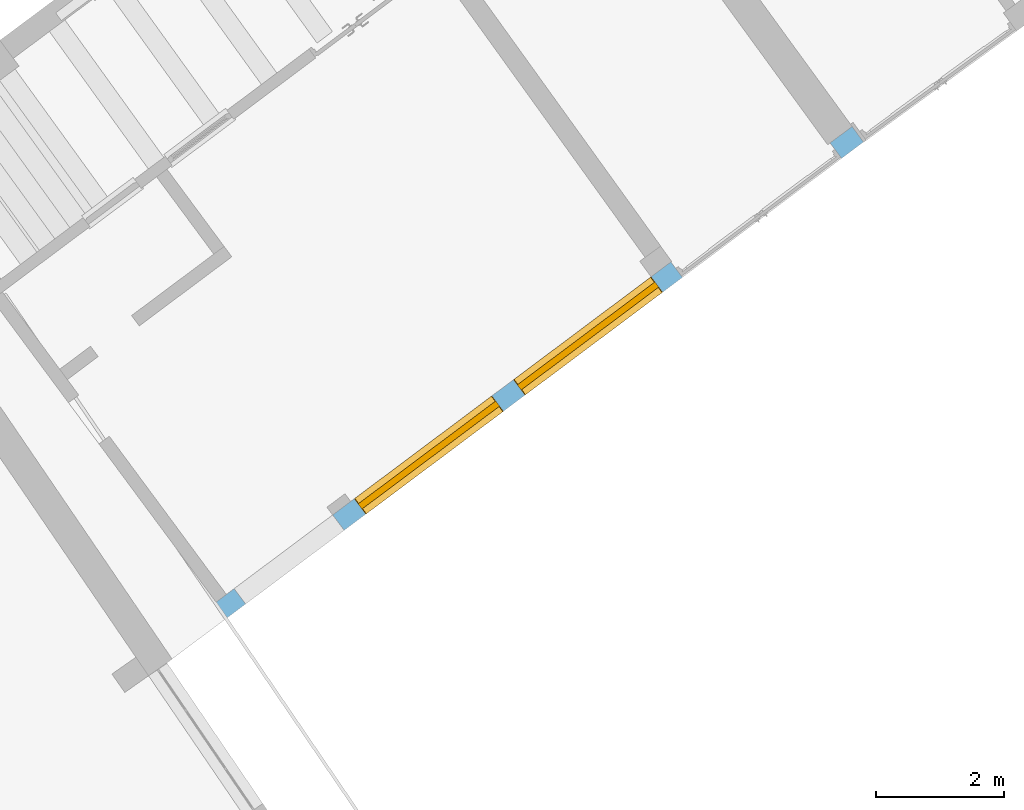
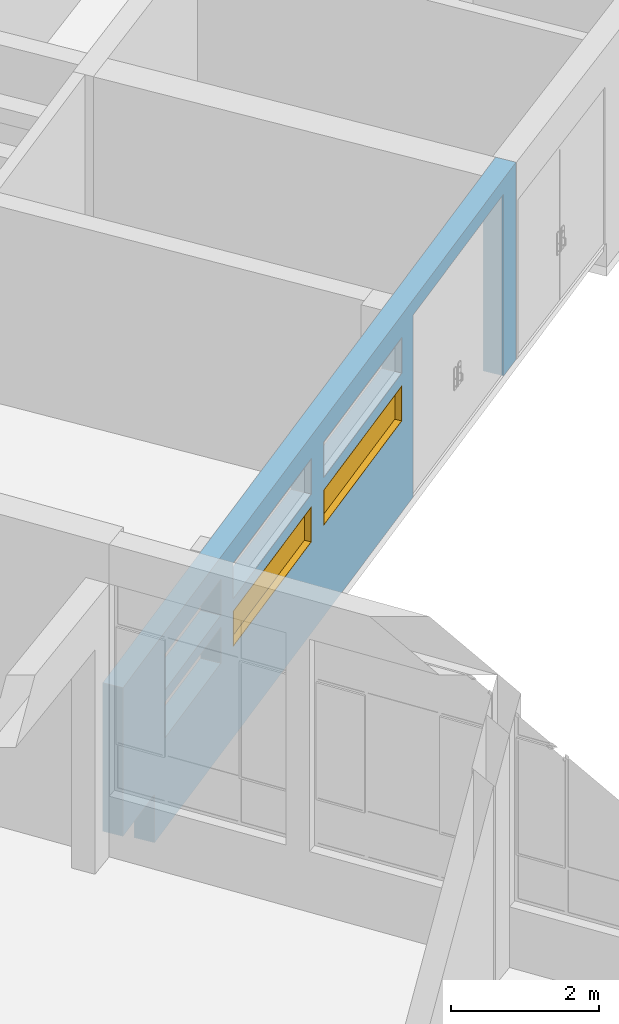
# One storey, part 135 of 157: 2 windows, 7 openings, plus 1 element that does not belong to this part.
"""IFC2X3 building model written with IfcOpenShell, lengths in millimetres."""

from ifc_helpers import new_model, entity, si_unit, converted_unit, derived_unit, direction, frame, frame_2d, origin, origin_2d_with_axis, place, context, subcontext, project, spatial, polyline, rectangle, outline, extrude, faceted_brep, source, transform, mapped, material, material_list, layer, layer_set, type_object, type_shapes, element, fill, save


model = new_model("IFC2X3")

# Units and contexts
model_context = context("Model", 3, precision=0.01, world=origin(), true_north=direction((6.123031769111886e-17, 1.0)))
body_context = subcontext(model_context, "Body", "Model", "MODEL_VIEW")
ifc_project = project(units=[si_unit("LENGTHUNIT", "METRE", prefix="MILLI"), si_unit("AREAUNIT", "SQUARE_METRE"), si_unit("VOLUMEUNIT", "CUBIC_METRE"), converted_unit("PLANEANGLEUNIT", "DEGREE", entity("IfcRatioMeasure", 0.017453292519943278), si_unit("PLANEANGLEUNIT", "RADIAN"), dimensions=[0, 0, 0, 0, 0, 0, 0]), si_unit("MASSUNIT", "GRAM", prefix="KILO"), derived_unit("MASSDENSITYUNIT", [(si_unit("MASSUNIT", "GRAM", prefix="KILO"), 1), (si_unit("LENGTHUNIT", "METRE"), -3)]), derived_unit("MOMENTOFINERTIAUNIT", [(si_unit("LENGTHUNIT", "METRE"), 4)]), si_unit("TIMEUNIT", "SECOND"), si_unit("FREQUENCYUNIT", "HERTZ"), si_unit("THERMODYNAMICTEMPERATUREUNIT", "DEGREE_CELSIUS"), derived_unit("THERMALTRANSMITTANCEUNIT", [(si_unit("MASSUNIT", "GRAM", prefix="KILO"), 1), (si_unit("THERMODYNAMICTEMPERATUREUNIT", "KELVIN"), -1), (si_unit("TIMEUNIT", "SECOND"), -3)]), derived_unit("THERMALCONDUCTANCEUNIT", [(si_unit("MASSUNIT", "GRAM", prefix="KILO"), 1), (si_unit("LENGTHUNIT", "METRE"), 1), (si_unit("THERMODYNAMICTEMPERATUREUNIT", "KELVIN"), -1), (si_unit("TIMEUNIT", "SECOND"), -3)]), derived_unit("VOLUMETRICFLOWRATEUNIT", [(si_unit("LENGTHUNIT", "METRE"), 3), (si_unit("TIMEUNIT", "SECOND"), -1)]), derived_unit("MASSFLOWRATEUNIT", [(si_unit("MASSUNIT", "GRAM", prefix="KILO"), 1), (si_unit("TIMEUNIT", "SECOND"), -1)]), derived_unit("ROTATIONALFREQUENCYUNIT", [(si_unit("TIMEUNIT", "SECOND"), -1)]), si_unit("ELECTRICCURRENTUNIT", "AMPERE"), si_unit("ELECTRICVOLTAGEUNIT", "VOLT"), si_unit("POWERUNIT", "WATT"), converted_unit("FORCEUNIT", "KIP", entity("IfcRatioMeasure", 2.088543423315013e-05), si_unit("FORCEUNIT", "NEWTON"), dimensions=[1, 1, -2, 0, 0, 0, 0]), si_unit("ILLUMINANCEUNIT", "LUX"), si_unit("LUMINOUSFLUXUNIT", "LUMEN"), si_unit("LUMINOUSINTENSITYUNIT", "CANDELA"), derived_unit("USERDEFINED", [(si_unit("MASSUNIT", "GRAM", prefix="KILO"), -1), (si_unit("LENGTHUNIT", "METRE"), -2), (si_unit("TIMEUNIT", "SECOND"), 3), (si_unit("LUMINOUSFLUXUNIT", "LUMEN"), 1)]), derived_unit("USERDEFINED", [(si_unit("MASSUNIT", "GRAM", prefix="KILO"), 1), (si_unit("LENGTHUNIT", "METRE"), 3), (si_unit("TIMEUNIT", "SECOND"), -3), (si_unit("ELECTRICCURRENTUNIT", "AMPERE"), -2)]), derived_unit("USERDEFINED", [(si_unit("LENGTHUNIT", "METRE"), 2), (si_unit("TIMEUNIT", "SECOND"), -2)]), derived_unit("SOUNDPOWERUNIT", [(si_unit("MASSUNIT", "GRAM", prefix="KILO"), 1), (si_unit("LENGTHUNIT", "METRE"), 2), (si_unit("TIMEUNIT", "SECOND"), -3)]), derived_unit("SOUNDPRESSUREUNIT", [(si_unit("MASSUNIT", "GRAM", prefix="KILO"), 1), (si_unit("LENGTHUNIT", "METRE"), -1), (si_unit("TIMEUNIT", "SECOND"), -2)]), derived_unit("LINEARVELOCITYUNIT", [(si_unit("LENGTHUNIT", "METRE"), 1), (si_unit("TIMEUNIT", "SECOND"), -1)]), si_unit("PRESSUREUNIT", "PASCAL"), derived_unit("USERDEFINED", [(si_unit("LENGTHUNIT", "METRE"), -2), (si_unit("MASSUNIT", "GRAM", prefix="KILO"), 1), (si_unit("TIMEUNIT", "SECOND"), -2)]), derived_unit("LINEARFORCEUNIT", [(si_unit("MASSUNIT", "GRAM", prefix="KILO"), 1), (si_unit("LENGTHUNIT", "METRE"), 1), (si_unit("TIMEUNIT", "SECOND"), -2), (si_unit("LENGTHUNIT", "METRE"), -1)]), derived_unit("PLANARFORCEUNIT", [(si_unit("MASSUNIT", "GRAM", prefix="KILO"), 1), (si_unit("LENGTHUNIT", "METRE"), 1), (si_unit("TIMEUNIT", "SECOND"), -2), (si_unit("LENGTHUNIT", "METRE"), -2)]), derived_unit("SPECIFICHEATCAPACITYUNIT", [(si_unit("LENGTHUNIT", "METRE"), 2), (si_unit("TIMEUNIT", "SECOND"), -2), (si_unit("THERMODYNAMICTEMPERATUREUNIT", "KELVIN"), -1)]), derived_unit("VAPORPERMEABILITYUNIT", [(si_unit("TIMEUNIT", "SECOND"), 1), (si_unit("LENGTHUNIT", "METRE"), -1)]), derived_unit("DYNAMICVISCOSITYUNIT", [(si_unit("MASSUNIT", "GRAM", prefix="KILO"), 1), (si_unit("LENGTHUNIT", "METRE"), -1), (si_unit("TIMEUNIT", "SECOND"), -1)]), derived_unit("THERMALEXPANSIONCOEFFICIENTUNIT", [(si_unit("THERMODYNAMICTEMPERATUREUNIT", "KELVIN"), -1)])], contexts=[model_context])

# Site, building, storey
site_placement = place(None, frame((0.0, 0.0, 0.0), z_axis=(0.0, 0.0, 1.0), x_axis=(0.8191520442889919, 0.5735764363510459, 0.0)))
site = spatial("IfcSite", under=ifc_project, at=site_placement, Name="Default", CompositionType="ELEMENT")
building_placement = place(site_placement, origin())
building = spatial("IfcBuilding", under=site, at=building_placement, CompositionType="ELEMENT")
storey_placement = place(building_placement, origin())
storey = spatial("IfcBuildingStorey", under=building, at=storey_placement, Name="1.EG +0.00", CompositionType="ELEMENT", Elevation=-4.331468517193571e-12)

# Wall, openings, windows
ifc_material_1 = material(Name="Analytical Wall Surface_CJC")
ifc_layer = layer(ifc_material_1, 300.0)
ifc_layer_set = layer_set([ifc_layer], Name="Basic Wall:Wand_Aussen_30")
wall_type = type_object("IfcWallType", Name="Basic Wall:Wand_Aussen_30", PredefinedType="STANDARD", material=ifc_layer_set)
wall_placement = place(storey_placement, frame((-204115.16931109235, 157974.41195440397, -750.0), z_axis=(0.0, 0.0, 1.0), x_axis=(0.9995120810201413, 0.031234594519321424, 0.0)))
wall = element("IfcWall", 1, at=wall_placement, inside=storey, type_object=wall_type, Name="Basic Wall:Wand_Aussen_30", ObjectType="Basic Wall:Wand_Aussen_30", context=body_context, shape_type="Brep", body=[
    faceted_brep([(13462.146148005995, -150.0, 3250.0), (0.0, -150.0, 3250.0), (0.0, -150.0, 800.0), (1079.6115661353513, -150.0, 800.0), (1079.6115661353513, -150.0, 0.0), (9937.425197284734, -150.0, 0.0), (9937.425197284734, -150.0, 3000.0), (13037.425197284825, -150.0, 3000.0), (13037.425197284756, -150.0, 0.0), (13462.146148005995, -150.0, 0.0), (6451.92844655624, -150.0, 1500.0), (3771.928446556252, -150.0, 1500.0), (3771.928446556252, -150.0, 2090.0), (6451.92844655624, -150.0, 2090.0), (9551.928446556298, -150.0, 1500.0), (6871.928446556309, -150.0, 1500.0), (6871.928446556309, -150.0, 2090.0), (9551.928446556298, -150.0, 2090.0), (3351.9284465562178, -150.0, 1500.0), (1431.928446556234, -150.0, 1500.0), (1431.928446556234, -150.0, 2090.0), (3351.9284465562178, -150.0, 2090.0), (3351.9284465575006, -150.0, 2880.0), (3351.9284465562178, -150.0, 2290.0), (1431.928446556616, -150.0, 2290.0), (1431.9284465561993, -150.0, 2880.0), (9551.928446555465, -150.0, 2880.0), (9551.928446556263, -150.0, 2290.0), (6871.928446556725, -150.0, 2290.0), (6871.928446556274, -150.0, 2880.0), (6451.928446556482, -150.0, 2880.0), (6451.928446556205, -150.0, 2290.0), (3771.9284465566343, -150.0, 2290.0), (3771.9284465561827, -150.0, 2880.0), (0.0, 150.0, 3250.0), (1081.098058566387, 150.0, 3250.0), (1281.100513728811, 150.0, 3250.0), (3351.9284465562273, 150.0, 3250.0), (3701.9284465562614, 150.0, 3250.0), (9551.928446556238, 150.0, 3250.0), (9951.967355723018, 150.0, 3250.0), (12990.91558234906, 150.0, 3250.0), (13465.953840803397, 150.0, 3250.0), (13465.953840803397, 150.0, 0.0), (13037.425197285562, 150.0, 0.0), (13037.42519728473, 150.0, 3000.0), (9937.425197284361, 150.0, 3000.0), (9937.425197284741, 150.0, 0.0), (1281.100513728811, 150.0, 0.0), (1081.098058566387, 150.0, 0.0), (1081.098058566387, 150.0, 800.0), (0.0, 150.0, 800.0), (6451.928446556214, 150.0, 1500.0), (6451.928446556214, 150.0, 2090.0), (3771.9284465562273, 150.0, 2090.0), (3771.9284465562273, 150.0, 1500.0), (9551.928446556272, 150.0, 1500.0), (9551.928446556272, 150.0, 2090.0), (6871.928446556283, 150.0, 2090.0), (6871.928446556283, 150.0, 1500.0), (3351.9284465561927, 150.0, 1500.0), (3351.9284465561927, 150.0, 2090.0), (1431.9284465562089, 150.0, 2090.0), (1431.9284465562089, 150.0, 1500.0), (9551.928446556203, 150.0, 2290.0), (9551.928446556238, 150.0, 2880.0), (6871.928446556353, 150.0, 2880.0), (6871.928446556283, 150.0, 2290.0), (6451.928446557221, 150.0, 2290.0), (6451.928446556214, 150.0, 2880.0), (3771.928446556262, 150.0, 2880.0), (3771.9284465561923, 150.0, 2290.0), (3351.9284465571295, 150.0, 2290.0), (3351.9284465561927, 150.0, 2880.0), (1431.9284465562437, 150.0, 2880.0), (1431.9284465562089, 150.0, 2290.0)], [[[0, 1, 2, 3, 4, 5, 6, 7, 8, 9], [10, 11, 12, 13], [14, 15, 16, 17], [18, 19, 20, 21], [22, 23, 24, 25], [26, 27, 28, 29], [30, 31, 32, 33]], [[34, 35, 36, 37, 38, 39, 40, 41, 42, 43, 44, 45, 46, 47, 48, 49, 50, 51], [52, 53, 54, 55], [56, 57, 58, 59], [60, 61, 62, 63], [64, 65, 66, 67], [68, 69, 70, 71], [72, 73, 74, 75]], [[0, 9, 43, 42]], [[4, 49, 48, 47, 5]], [[1, 0, 42, 41, 40, 39, 38, 37, 36, 35, 34]], [[2, 1, 34, 51]], [[3, 2, 51, 50]], [[4, 3, 50, 49]], [[46, 6, 5, 47]], [[6, 46, 45, 7]], [[7, 45, 44, 8]], [[53, 52, 10, 13]], [[54, 53, 13, 12]], [[55, 54, 12, 11]], [[52, 55, 11, 10]], [[57, 56, 14, 17]], [[58, 57, 17, 16]], [[59, 58, 16, 15]], [[56, 59, 15, 14]], [[61, 60, 18, 21]], [[62, 61, 21, 20]], [[63, 62, 20, 19]], [[60, 63, 19, 18]], [[72, 23, 22, 73]], [[73, 22, 25, 74]], [[74, 25, 24, 75]], [[23, 72, 75, 24]], [[64, 27, 26, 65]], [[65, 26, 29, 66]], [[28, 67, 66, 29]], [[27, 64, 67, 28]], [[68, 31, 30, 69]], [[69, 30, 33, 70]], [[32, 71, 70, 33]], [[31, 68, 71, 32]], [[43, 9, 8, 44]]]),
])
opening_1_placement = place(wall_placement, frame((13037.425197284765, 150.0, 0.0)))
element("IfcOpeningElement", 2, at=opening_1_placement, cuts=wall, Name="M_Door-Exterior-Double:300x290:1", ObjectType="Opening", context=body_context, shape_type="SweptSolid", body=[
    extrude(rectangle(XDim=3000.0, YDim=3099.999999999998, at=frame_2d((1500.0, 1549.999999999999), x_axis=(1.0, 0.0))), frame((0.0, 0.0, 0.0), z_axis=(0.0, -1.0, 0.0), x_axis=(0.0, 0.0, 1.0)), (0.0, 0.0, 1.0), 300.0),
])
opening_2_placement = place(wall_placement, frame((6451.928446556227, 150.0, 1500.0)))
opening_2 = element("IfcOpeningElement", 3, at=opening_2_placement, cuts=wall, Name="WINDOW_Glass_Block:WINDOW_Glass_Block_14x3:1", ObjectType="Opening", context=body_context, shape_type="SweptSolid", body=[
    extrude(rectangle(XDim=589.9999999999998, YDim=2679.999999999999, at=frame_2d((294.99999999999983, 1339.9999999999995), x_axis=(1.0, 0.0))), frame((0.0, 0.0, 0.0), z_axis=(0.0, -1.0, 0.0), x_axis=(0.0, 0.0, 1.0)), (0.0, 0.0, 1.0), 300.0),
])
opening_3_placement = place(wall_placement, frame((9551.928446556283, 150.0, 1500.0)))
opening_3 = element("IfcOpeningElement", 4, at=opening_3_placement, cuts=wall, Name="WINDOW_Glass_Block:WINDOW_Glass_Block_14x3:1", ObjectType="Opening", context=body_context, shape_type="SweptSolid", body=[
    extrude(rectangle(XDim=589.9999999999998, YDim=2679.999999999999, at=frame_2d((294.99999999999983, 1339.9999999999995), x_axis=(1.0, 0.0))), frame((0.0, 0.0, 0.0), z_axis=(0.0, -1.0, 0.0), x_axis=(0.0, 0.0, 1.0)), (0.0, 0.0, 1.0), 300.0),
])
opening_4_placement = place(wall_placement, frame((3351.92844655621, 150.0, 1500.0)))
element("IfcOpeningElement", 5, at=opening_4_placement, cuts=wall, Name="WINDOW_Glass_Block:WINDOW_Glass_Block_10x3:1", ObjectType="Opening", context=body_context, shape_type="SweptSolid", body=[
    extrude(rectangle(XDim=589.9999999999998, YDim=1920.0, at=frame_2d((294.99999999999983, 960.0), x_axis=(1.0, 0.0))), frame((0.0, 0.0, 0.0), z_axis=(0.0, -1.0, 0.0), x_axis=(0.0, 0.0, 1.0)), (0.0, 0.0, 1.0), 300.0),
])
opening_5_placement = place(wall_placement, frame((6451.928446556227, 150.0, 2290.0)))
element("IfcOpeningElement", 6, at=opening_5_placement, cuts=wall, Name="WINDOW_Glass_Block:WINDOW_Glass_Block_14x3:1", ObjectType="Opening", context=body_context, shape_type="SweptSolid", body=[
    extrude(rectangle(XDim=589.9999999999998, YDim=2679.999999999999, at=frame_2d((294.99999999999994, 1339.9999999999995), x_axis=(1.0, 0.0))), frame((0.0, 0.0, 0.0), z_axis=(0.0, -1.0, 0.0), x_axis=(0.0, 0.0, 1.0)), (0.0, 0.0, 1.0), 300.0),
])
opening_6_placement = place(wall_placement, frame((9551.928446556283, 150.0, 2290.0)))
element("IfcOpeningElement", 7, at=opening_6_placement, cuts=wall, Name="WINDOW_Glass_Block:WINDOW_Glass_Block_14x3:1", ObjectType="Opening", context=body_context, shape_type="SweptSolid", body=[
    extrude(rectangle(XDim=589.9999999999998, YDim=2679.999999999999, at=frame_2d((294.99999999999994, 1339.9999999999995), x_axis=(1.0, 0.0))), frame((0.0, 0.0, 0.0), z_axis=(0.0, -1.0, 0.0), x_axis=(0.0, 0.0, 1.0)), (0.0, 0.0, 1.0), 300.0),
])
opening_7_placement = place(wall_placement, frame((3351.92844655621, 150.0, 2290.0)))
element("IfcOpeningElement", 8, at=opening_7_placement, cuts=wall, Name="WINDOW_Glass_Block:WINDOW_Glass_Block_10x3:1", ObjectType="Opening", context=body_context, shape_type="SweptSolid", body=[
    extrude(rectangle(XDim=589.9999999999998, YDim=1920.0, at=frame_2d((294.99999999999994, 960.0), x_axis=(1.0, 0.0))), frame((0.0, 0.0, 0.0), z_axis=(0.0, -1.0, 0.0), x_axis=(0.0, 0.0, 1.0)), (0.0, 0.0, 1.0), 300.0),
])
ifc_material_2 = material(Name="Glass")
ifc_material_3 = material(Name="Wood")
ifc_material_list = material_list([ifc_material_2, ifc_material_3])
window_style = type_object("IfcWindowStyle", Name="WINDOW_Glass_Block:WINDOW_Glass_Block_14x3", ConstructionType="NOTDEFINED", OperationType="NOTDEFINED", ParameterTakesPrecedence=False, Sizeable=False, material=ifc_material_list)
shared_shape = source(origin(), body_context, "Body", "SweptSolid", [
    extrude(rectangle(XDim=190.0, YDim=100.0, at=frame_2d((6.394884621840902e-14, 0.0), x_axis=(1.0, 0.0))), frame((2385.0, 150.0, 200.0), z_axis=(0.0, 0.0, 1.0), x_axis=(-1.0, 0.0, 0.0)), (0.0, 0.0, 1.0), 189.99999999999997),
    extrude(rectangle(XDim=190.0, YDim=100.0, at=frame_2d((-6.394884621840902e-14, 0.0), x_axis=(1.0, 0.0))), frame((2195.0, 150.0, 200.0), z_axis=(0.0, 0.0, 1.0), x_axis=(-1.0, 0.0, 0.0)), (0.0, 0.0, 1.0), 189.99999999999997),
    extrude(rectangle(XDim=190.0, YDim=100.0, at=frame_2d((6.394884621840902e-14, 0.0), x_axis=(1.0, 0.0))), frame((2005.0, 150.0, 200.0), z_axis=(0.0, 0.0, 1.0), x_axis=(-1.0, 0.0, 0.0)), (0.0, 0.0, 1.0), 189.99999999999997),
    extrude(rectangle(XDim=190.0, YDim=100.0, at=frame_2d((-6.394884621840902e-14, 0.0), x_axis=(1.0, 0.0))), frame((1815.0, 150.0, 200.0), z_axis=(0.0, 0.0, 1.0), x_axis=(-1.0, 0.0, 0.0)), (0.0, 0.0, 1.0), 189.99999999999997),
    extrude(rectangle(XDim=189.99999999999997, YDim=100.0, at=origin_2d_with_axis()), frame((1625.0, 150.0, 200.0), z_axis=(0.0, 0.0, 1.0), x_axis=(-1.0, 0.0, 0.0)), (0.0, 0.0, 1.0), 189.99999999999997),
    extrude(rectangle(XDim=190.00000000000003, YDim=100.0, at=origin_2d_with_axis()), frame((1435.0, 150.0, 200.0), z_axis=(0.0, 0.0, 1.0), x_axis=(-1.0, 0.0, 0.0)), (0.0, 0.0, 1.0), 189.99999999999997),
    extrude(rectangle(XDim=190.0, YDim=100.0, at=frame_2d((-2.1316282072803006e-14, 0.0), x_axis=(1.0, 0.0))), frame((1245.0, 150.0, 200.0), z_axis=(0.0, 0.0, 1.0), x_axis=(-1.0, 0.0, 0.0)), (0.0, 0.0, 1.0), 189.99999999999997),
    extrude(rectangle(XDim=190.0, YDim=100.0, at=frame_2d((-2.1316282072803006e-14, 0.0), x_axis=(1.0, 0.0))), frame((1055.0, 150.0, 200.0), z_axis=(0.0, 0.0, 1.0), x_axis=(-1.0, 0.0, 0.0)), (0.0, 0.0, 1.0), 189.99999999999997),
    extrude(rectangle(XDim=190.0, YDim=100.0, at=frame_2d((-6.394884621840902e-14, 0.0), x_axis=(1.0, 0.0))), frame((865.0, 150.0, 200.0), z_axis=(0.0, 0.0, 1.0), x_axis=(-1.0, 0.0, 0.0)), (0.0, 0.0, 1.0), 189.99999999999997),
    extrude(rectangle(XDim=190.0, YDim=100.0, at=frame_2d((6.394884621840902e-14, 0.0), x_axis=(1.0, 0.0))), frame((675.0, 150.0, 200.0), z_axis=(0.0, 0.0, 1.0), x_axis=(-1.0, 0.0, 0.0)), (0.0, 0.0, 1.0), 189.99999999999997),
    extrude(rectangle(XDim=190.0, YDim=100.0, at=frame_2d((-6.394884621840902e-14, 0.0), x_axis=(1.0, 0.0))), frame((485.0, 150.0, 200.0), z_axis=(0.0, 0.0, 1.0), x_axis=(-1.0, 0.0, 0.0)), (0.0, 0.0, 1.0), 189.99999999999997),
    extrude(rectangle(XDim=190.0, YDim=100.0, at=frame_2d((-6.394884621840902e-14, 0.0), x_axis=(1.0, 0.0))), frame((295.0, 150.0, 200.0), z_axis=(0.0, 0.0, 1.0), x_axis=(-1.0, 0.0, 0.0)), (0.0, 0.0, 1.0), 189.99999999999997),
    extrude(rectangle(XDim=190.0000000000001, YDim=100.0, at=origin_2d_with_axis()), frame((2575.0, 150.0, 200.0), z_axis=(0.0, 0.0, 1.0), x_axis=(-1.0, 0.0, 0.0)), (0.0, 0.0, 1.0), 189.99999999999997),
    extrude(rectangle(XDim=190.0, YDim=100.0, at=frame_2d((6.394884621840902e-14, 0.0), x_axis=(1.0, 0.0))), frame((105.0, 150.0, 200.0), z_axis=(0.0, 0.0, 1.0), x_axis=(-1.0, 0.0, 0.0)), (0.0, 0.0, 1.0), 189.99999999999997),
    extrude(rectangle(XDim=190.0, YDim=100.0, at=frame_2d((6.394884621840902e-14, 0.0), x_axis=(1.0, 0.0))), frame((2385.0, 150.0, 390.0), z_axis=(0.0, 0.0, 1.0), x_axis=(-1.0, 0.0, 0.0)), (0.0, 0.0, 1.0), 190.0000000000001),
    extrude(rectangle(XDim=190.0, YDim=100.0, at=frame_2d((-6.394884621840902e-14, 0.0), x_axis=(1.0, 0.0))), frame((2195.0, 150.0, 390.0), z_axis=(0.0, 0.0, 1.0), x_axis=(-1.0, 0.0, 0.0)), (0.0, 0.0, 1.0), 190.0000000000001),
    extrude(rectangle(XDim=190.0, YDim=100.0, at=frame_2d((6.394884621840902e-14, 0.0), x_axis=(1.0, 0.0))), frame((2005.0, 150.0, 390.0), z_axis=(0.0, 0.0, 1.0), x_axis=(-1.0, 0.0, 0.0)), (0.0, 0.0, 1.0), 190.0000000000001),
    extrude(rectangle(XDim=190.0, YDim=100.0, at=frame_2d((-6.394884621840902e-14, 0.0), x_axis=(1.0, 0.0))), frame((1815.0, 150.0, 390.0), z_axis=(0.0, 0.0, 1.0), x_axis=(-1.0, 0.0, 0.0)), (0.0, 0.0, 1.0), 190.0000000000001),
    extrude(rectangle(XDim=189.99999999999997, YDim=100.0, at=origin_2d_with_axis()), frame((1625.0, 150.0, 390.0), z_axis=(0.0, 0.0, 1.0), x_axis=(-1.0, 0.0, 0.0)), (0.0, 0.0, 1.0), 190.0000000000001),
    extrude(rectangle(XDim=190.00000000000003, YDim=100.0, at=origin_2d_with_axis()), frame((1435.0, 150.0, 390.0), z_axis=(0.0, 0.0, 1.0), x_axis=(-1.0, 0.0, 0.0)), (0.0, 0.0, 1.0), 190.0000000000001),
    extrude(rectangle(XDim=190.0, YDim=100.0, at=frame_2d((-2.1316282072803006e-14, 0.0), x_axis=(1.0, 0.0))), frame((1245.0, 150.0, 390.0), z_axis=(0.0, 0.0, 1.0), x_axis=(-1.0, 0.0, 0.0)), (0.0, 0.0, 1.0), 190.0000000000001),
    extrude(rectangle(XDim=190.0, YDim=100.0, at=frame_2d((-2.1316282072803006e-14, 0.0), x_axis=(1.0, 0.0))), frame((1055.0, 150.0, 390.0), z_axis=(0.0, 0.0, 1.0), x_axis=(-1.0, 0.0, 0.0)), (0.0, 0.0, 1.0), 190.0000000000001),
    extrude(rectangle(XDim=190.0, YDim=100.0, at=frame_2d((-6.394884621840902e-14, 0.0), x_axis=(1.0, 0.0))), frame((865.0, 150.0, 390.0), z_axis=(0.0, 0.0, 1.0), x_axis=(-1.0, 0.0, 0.0)), (0.0, 0.0, 1.0), 190.0000000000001),
    extrude(rectangle(XDim=190.0, YDim=100.0, at=frame_2d((6.394884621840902e-14, 0.0), x_axis=(1.0, 0.0))), frame((675.0, 150.0, 390.0), z_axis=(0.0, 0.0, 1.0), x_axis=(-1.0, 0.0, 0.0)), (0.0, 0.0, 1.0), 190.0000000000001),
    extrude(rectangle(XDim=190.0, YDim=100.0, at=frame_2d((-6.394884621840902e-14, 0.0), x_axis=(1.0, 0.0))), frame((485.0, 150.0, 390.0), z_axis=(0.0, 0.0, 1.0), x_axis=(-1.0, 0.0, 0.0)), (0.0, 0.0, 1.0), 190.0000000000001),
    extrude(rectangle(XDim=190.0, YDim=100.0, at=frame_2d((-6.394884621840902e-14, 0.0), x_axis=(1.0, 0.0))), frame((295.0, 150.0, 390.0), z_axis=(0.0, 0.0, 1.0), x_axis=(-1.0, 0.0, 0.0)), (0.0, 0.0, 1.0), 190.0000000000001),
    extrude(rectangle(XDim=190.0000000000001, YDim=100.0, at=origin_2d_with_axis()), frame((2575.0, 150.0, 390.0), z_axis=(0.0, 0.0, 1.0), x_axis=(-1.0, 0.0, 0.0)), (0.0, 0.0, 1.0), 190.0000000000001),
    extrude(rectangle(XDim=190.0, YDim=100.0, at=frame_2d((6.394884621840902e-14, 0.0), x_axis=(1.0, 0.0))), frame((105.0, 150.0, 390.0), z_axis=(0.0, 0.0, 1.0), x_axis=(-1.0, 0.0, 0.0)), (0.0, 0.0, 1.0), 190.0000000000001),
    extrude(rectangle(XDim=190.0, YDim=100.0, at=frame_2d((6.394884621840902e-14, 0.0), x_axis=(1.0, 0.0))), frame((2385.0, 150.0, 10.0), z_axis=(0.0, 0.0, 1.0), x_axis=(-1.0, 0.0, 0.0)), (0.0, 0.0, 1.0), 189.99999999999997),
    extrude(rectangle(XDim=190.0, YDim=100.0, at=frame_2d((-6.394884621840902e-14, 0.0), x_axis=(1.0, 0.0))), frame((2195.0, 150.0, 10.0), z_axis=(0.0, 0.0, 1.0), x_axis=(-1.0, 0.0, 0.0)), (0.0, 0.0, 1.0), 189.99999999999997),
    extrude(rectangle(XDim=190.0, YDim=100.0, at=frame_2d((6.394884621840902e-14, 0.0), x_axis=(1.0, 0.0))), frame((2005.0, 150.0, 10.0), z_axis=(0.0, 0.0, 1.0), x_axis=(-1.0, 0.0, 0.0)), (0.0, 0.0, 1.0), 189.99999999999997),
    extrude(rectangle(XDim=190.0, YDim=100.0, at=frame_2d((-6.394884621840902e-14, 0.0), x_axis=(1.0, 0.0))), frame((1815.0, 150.0, 10.0), z_axis=(0.0, 0.0, 1.0), x_axis=(-1.0, 0.0, 0.0)), (0.0, 0.0, 1.0), 189.99999999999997),
    extrude(rectangle(XDim=189.99999999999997, YDim=100.0, at=origin_2d_with_axis()), frame((1625.0, 150.0, 10.0), z_axis=(0.0, 0.0, 1.0), x_axis=(-1.0, 0.0, 0.0)), (0.0, 0.0, 1.0), 189.99999999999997),
    extrude(rectangle(XDim=190.00000000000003, YDim=100.0, at=origin_2d_with_axis()), frame((1435.0, 150.0, 10.0), z_axis=(0.0, 0.0, 1.0), x_axis=(-1.0, 0.0, 0.0)), (0.0, 0.0, 1.0), 189.99999999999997),
    extrude(rectangle(XDim=190.0, YDim=100.0, at=frame_2d((-2.1316282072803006e-14, 0.0), x_axis=(1.0, 0.0))), frame((1245.0, 150.0, 10.0), z_axis=(0.0, 0.0, 1.0), x_axis=(-1.0, 0.0, 0.0)), (0.0, 0.0, 1.0), 189.99999999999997),
    extrude(rectangle(XDim=190.0, YDim=100.0, at=frame_2d((-2.1316282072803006e-14, 0.0), x_axis=(1.0, 0.0))), frame((1055.0, 150.0, 10.0), z_axis=(0.0, 0.0, 1.0), x_axis=(-1.0, 0.0, 0.0)), (0.0, 0.0, 1.0), 189.99999999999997),
    extrude(rectangle(XDim=190.0, YDim=100.0, at=frame_2d((-6.394884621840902e-14, 0.0), x_axis=(1.0, 0.0))), frame((865.0, 150.0, 10.0), z_axis=(0.0, 0.0, 1.0), x_axis=(-1.0, 0.0, 0.0)), (0.0, 0.0, 1.0), 189.99999999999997),
    extrude(rectangle(XDim=190.0, YDim=100.0, at=frame_2d((6.394884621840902e-14, 0.0), x_axis=(1.0, 0.0))), frame((675.0, 150.0, 10.0), z_axis=(0.0, 0.0, 1.0), x_axis=(-1.0, 0.0, 0.0)), (0.0, 0.0, 1.0), 189.99999999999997),
    extrude(rectangle(XDim=190.0, YDim=100.0, at=frame_2d((-6.394884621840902e-14, 0.0), x_axis=(1.0, 0.0))), frame((485.0, 150.0, 10.0), z_axis=(0.0, 0.0, 1.0), x_axis=(-1.0, 0.0, 0.0)), (0.0, 0.0, 1.0), 189.99999999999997),
    extrude(rectangle(XDim=190.0, YDim=100.0, at=frame_2d((-6.394884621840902e-14, 0.0), x_axis=(1.0, 0.0))), frame((295.0, 150.0, 10.0), z_axis=(0.0, 0.0, 1.0), x_axis=(-1.0, 0.0, 0.0)), (0.0, 0.0, 1.0), 189.99999999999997),
    extrude(rectangle(XDim=190.0000000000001, YDim=100.0, at=origin_2d_with_axis()), frame((2575.0, 150.0, 10.0), z_axis=(0.0, 0.0, 1.0), x_axis=(-1.0, 0.0, 0.0)), (0.0, 0.0, 1.0), 189.99999999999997),
    extrude(rectangle(XDim=190.0, YDim=100.0, at=frame_2d((6.394884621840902e-14, 0.0), x_axis=(1.0, 0.0))), frame((105.0, 150.0, 10.0), z_axis=(0.0, 0.0, 1.0), x_axis=(-1.0, 0.0, 0.0)), (0.0, 0.0, 1.0), 189.99999999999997),
    extrude(outline(polyline([(-295.0, -1340.0), (295.0, -1340.0), (295.0, 1340.0), (-295.0, 1340.0), (-295.0, -1340.0)]), holes=[polyline([(-285.0, -1330.0), (-285.0, 1330.0), (285.0, 1330.0), (285.0, -1330.0), (-285.0, -1330.0)])]), frame((1340.0, 0.0, 295.0), z_axis=(0.0, 1.0, 0.0), x_axis=(0.0, 0.0, -1.0)), (0.0, 0.0, 1.0), 300.0),
])
type_shapes(window_style, [shared_shape])
window_1_placement = place(opening_2_placement, frame((0.0, 0.0, 0.0), z_axis=(0.0, 0.0, 1.0), x_axis=(-1.0, 0.0, 0.0)))
window_1 = element("IfcWindow", 9, at=window_1_placement, inside=storey, type_object=window_style, material=ifc_material_list, Name="WINDOW_Glass_Block:WINDOW_Glass_Block_14x3", ObjectType="WINDOW_Glass_Block:WINDOW_Glass_Block_14x3", OverallHeight=589.9999999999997, OverallWidth=2680.000000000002, context=body_context, shape_type="MappedRepresentation", body=[
    mapped(shared_shape, transform((0.0, 0.0, 0.0), scale=1.0)),
])
fill(opening_2, window_1)
window_2_placement = place(opening_3_placement, frame((0.0, 0.0, 0.0), z_axis=(0.0, 0.0, 1.0), x_axis=(-1.0, 0.0, 0.0)))
window_2 = element("IfcWindow", 10, at=window_2_placement, inside=storey, type_object=window_style, material=ifc_material_list, Name="WINDOW_Glass_Block:WINDOW_Glass_Block_14x3", ObjectType="WINDOW_Glass_Block:WINDOW_Glass_Block_14x3", OverallHeight=589.9999999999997, OverallWidth=2680.000000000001, context=body_context, shape_type="MappedRepresentation", body=[
    mapped(shared_shape, transform((0.0, 0.0, 0.0), scale=1.0)),
])
fill(opening_3, window_2)

save(model, "model.ifc")
